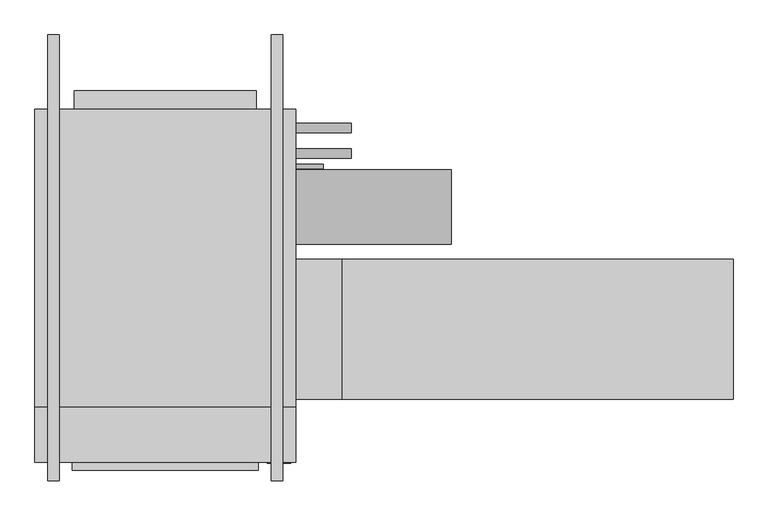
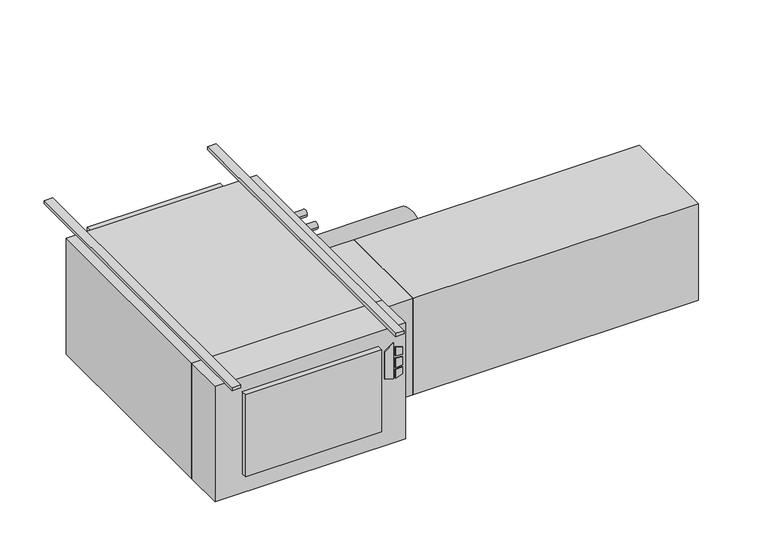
"""IFC4 building model written with IfcOpenShell, lengths in millimetres: proxy geometry."""

from ifc_helpers import new_model, si_unit, point, frame, frame_2d, origin, origin_with_axes, place, context, project, spatial, polyline, circle_curve, trimmed, segment, composite_curve, outline, extrude, source, transform, mapped, element, save


def mechanical_equipment_2b49ad70(model_context):
    return source(origin(), model_context, "Body", "SweptSolid", [
        extrude(outline(polyline([(-193.2519297, 430.2868862), (-203.2, 462.4602728), (-61.0290756, 462.4602728), (-84.0510817, 430.2868862), (-193.2519297, 430.2868862)])), frame((0.0, -797.052, 0.0), z_axis=(0.0, 1.0, 0.0), x_axis=(0.0, 0.0, 1.0)), (0.0, 0.0, 1.0), 3.175),
        extrude(outline(polyline([(-114.2526443, 469.2186058), (-117.4550368, 495.3), (-88.2261958, 495.3), (-80.1617807, 469.2186058), (-114.2526443, 469.2186058)])), frame((0.0, -797.052, 0.0), z_axis=(0.0, 1.0, 0.0), x_axis=(0.0, 0.0, 1.0)), (0.0, 0.0, 1.0), 3.175),
        extrude(outline(polyline([(-166.1161712, 495.3), (-169.7816721, 469.2186058), (-203.2, 469.2186058), (-194.5657628, 495.3), (-166.1161712, 495.3)])), frame((0.0, -797.052, 0.0), z_axis=(0.0, 1.0, 0.0), x_axis=(0.0, 0.0, 1.0)), (0.0, 0.0, 1.0), 3.175),
        extrude(outline(polyline([(-126.8010097, 495.3), (-124.5191834, 469.2186058), (-160.4567319, 469.2186058), (-157.7154669, 495.3), (-126.8010097, 495.3)])), frame((0.0, -797.052, 0.0), z_axis=(0.0, 1.0, 0.0), x_axis=(0.0, 0.0, 1.0)), (0.0, 0.0, 1.0), 3.175),
        extrude(outline(polyline([(508.0, -793.877), (-203.2, -793.877), (-203.2, -644.525), (508.0, -644.525), (508.0, -793.877)])), frame((0.0, 0.0, -457.2), z_axis=(0.0, 0.0, 1.0), x_axis=(1.0, 0.0, 0.0)), (0.0, 0.0, 1.0), 457.2),
        extrude(outline(polyline([(406.4, -816.229), (-101.6, -816.229), (-101.6, -793.877), (406.4, -793.877), (406.4, -816.229)])), frame((0.0, 0.0, -381.0), z_axis=(0.0, 0.0, 1.0), x_axis=(1.0, 0.0, 0.0)), (0.0, 0.0, 1.0), 323.85),
        extrude(outline(polyline([(1701.8, -241.3), (1701.8, -622.3), (635.0, -622.3), (635.0, -241.3), (1701.8, -241.3)])), frame((0.0, 0.0, -431.8), z_axis=(0.0, 0.0, 1.0), x_axis=(1.0, 0.0, 0.0)), (0.0, 0.0, 1.0), 381.0),
        extrude(outline(polyline([(635.0, -241.3), (635.0, -622.3), (508.0, -622.3), (508.0, -241.3), (635.0, -241.3)])), frame((0.0, 0.0, -431.8), z_axis=(0.0, 0.0, 1.0), x_axis=(1.0, 0.0, 0.0)), (0.0, 0.0, 1.0), 381.0),
        extrude(outline(composite_curve([segment(trimmed(circle_curve(frame_2d((117.475, -171.45)), 12.7), [point((130.175, -171.45))], [point((104.775, -171.45))], False, "CARTESIAN"), True, "CONTINUOUS"), segment(trimmed(circle_curve(frame_2d((117.475, -171.45)), 12.7), [point((104.775, -171.45))], [point((130.175, -171.45))], False, "CARTESIAN"), True, "CONTINUOUS")], self_intersect=False)), frame((508.0, 0.0, 0.0), z_axis=(1.0, 0.0, 0.0), x_axis=(0.0, 1.0, 0.0)), (0.0, 0.0, 1.0), 152.4),
        extrude(outline(composite_curve([segment(trimmed(circle_curve(frame_2d((47.625, -177.8)), 12.7), [point((60.325, -177.8))], [point((34.925, -177.8))], False, "CARTESIAN"), True, "CONTINUOUS"), segment(trimmed(circle_curve(frame_2d((47.625, -177.8)), 12.7), [point((34.925, -177.8))], [point((60.325, -177.8))], False, "CARTESIAN"), True, "CONTINUOUS")], self_intersect=False)), frame((508.0, 0.0, 0.0), z_axis=(1.0, 0.0, 0.0), x_axis=(0.0, 1.0, 0.0)), (0.0, 0.0, 1.0), 152.4),
        extrude(outline(composite_curve([segment(trimmed(circle_curve(frame_2d((-98.4896516, -228.6360165)), 101.6), [point((3.1103484, -228.6360165))], [point((-200.0896516, -228.6360165))], False, "CARTESIAN"), True, "CONTINUOUS"), segment(trimmed(circle_curve(frame_2d((-98.4896516, -228.6360165)), 101.6), [point((-200.0896516, -228.6360165))], [point((3.1103484, -228.6360165))], False, "CARTESIAN"), True, "CONTINUOUS")], self_intersect=False)), frame((508.0, 0.0, 0.0), z_axis=(1.0, 0.0, 0.0), x_axis=(0.0, 1.0, 0.0)), (0.0, 0.0, 1.0), 425.45),
        extrude(outline(composite_curve([segment(trimmed(circle_curve(frame_2d((12.7, -409.575)), 6.35), [point((19.05, -409.575))], [point((6.35, -409.575))], False, "CARTESIAN"), True, "CONTINUOUS"), segment(trimmed(circle_curve(frame_2d((12.7, -409.575)), 6.35), [point((6.35, -409.575))], [point((19.05, -409.575))], False, "CARTESIAN"), True, "CONTINUOUS")], self_intersect=False)), frame((508.0, 0.0, 0.0), z_axis=(1.0, 0.0, 0.0), x_axis=(0.0, 1.0, 0.0)), (0.0, 0.0, 1.0), 76.2),
        extrude(outline(polyline([(508.0, 168.275), (508.0, -644.525), (-203.2, -644.525), (-203.2, 168.275), (508.0, 168.275)])), frame((0.0, 0.0, -457.2), z_axis=(0.0, 0.0, 1.0), x_axis=(1.0, 0.0, 0.0)), (0.0, 0.0, 1.0), 457.2),
        extrude(outline(polyline([(-95.25, 219.075), (400.05, 219.075), (400.05, 168.275), (-95.25, 168.275), (-95.25, 219.075)])), frame((0.0, 0.0, -381.0), z_axis=(0.0, 0.0, 1.0), x_axis=(1.0, 0.0, 0.0)), (0.0, 0.0, 1.0), 355.6),
        extrude(outline(polyline([(-136.525, 371.475), (-136.525, -844.677), (-168.275, -844.677), (-168.275, 371.475), (-136.525, 371.475)])), origin_with_axes(), (0.0, 0.0, 1.0), 12.7),
        extrude(outline(polyline([(473.075, 371.475), (473.075, -844.677), (441.325, -844.677), (441.325, 371.475), (473.075, 371.475)])), origin_with_axes(), (0.0, 0.0, 1.0), 12.7),
    ])


if __name__ == "__main__":
    model = new_model("IFC4")
    model_context = context("Model", 3, world=origin())
    ifc_project = project(units=[si_unit("LENGTHUNIT", "METRE", prefix="MILLI")], contexts=[model_context])
    site = spatial("IfcSite", under=ifc_project)
    building = spatial("IfcBuilding", under=site)
    placement = place(None, origin())
    mechanical_equipment_shape = mechanical_equipment_2b49ad70(model_context)
    element("IfcBuildingElementProxy", 1, Name="High_Capacity_Horizontal_Cabinet_Fan_Coil_Unit_-_HTY_-_IEC_-_2 Pipe, Elec Heat_RH Side_2022 : Size 08 - 277v/60Hz/1Ph - 8/0 Coil 6.0kW - 8\" AirIn", ObjectType="High_Capacity_Horizontal_Cabinet_Fan_Coil_Unit_-_HTY_-_IEC_-_2 Pipe, Elec Heat_RH Side_2022 : Size 08 - 277v/60Hz/1Ph - 8/0 Coil 6.0kW - 8\" AirIn", at=placement, inside=building, context=model_context, shape_type="MappedRepresentation", body=[
        mapped(mechanical_equipment_shape, transform((0.0, 0.0, 0.0), x_axis=(1.0, 0.0, 0.0), y_axis=(0.0, 1.0, 0.0), z_axis=(0.0, 0.0, 1.0))),
    ])
    save(model, "model.ifc")
